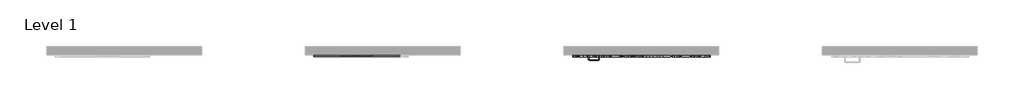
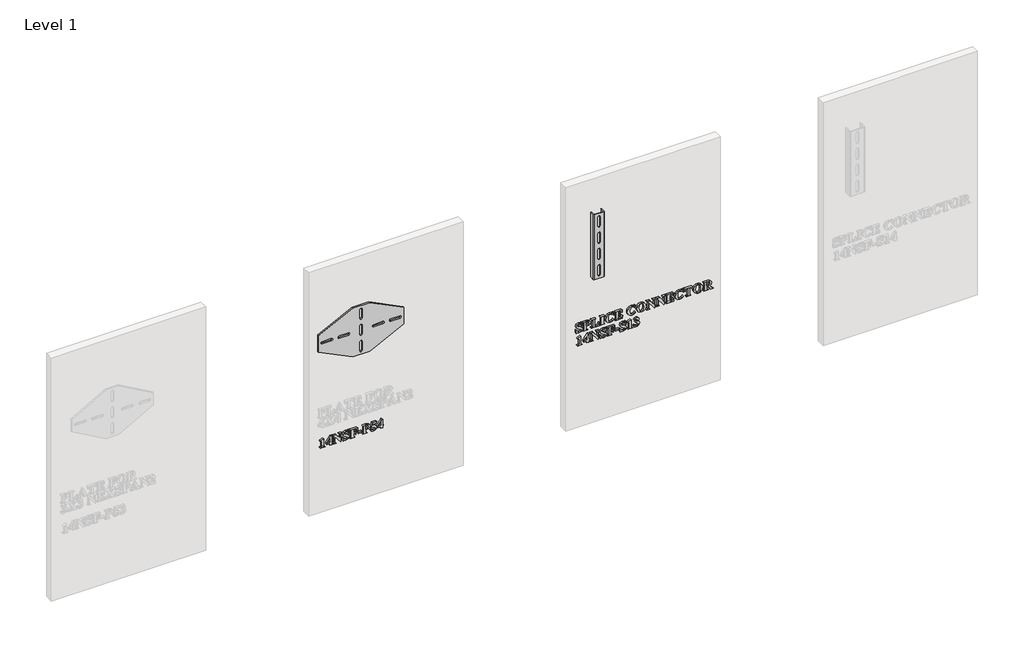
# One storey, part 20 of 21: 5 proxies.
"""IFC4 building model written with IfcOpenShell, lengths in millimetres."""

from ifc_helpers import new_model, si_unit, frame, origin, place, context, project, spatial, polyline, outline, extrude, transform, mapped, element, save
from components import generic_models_709acf42, generic_models_957c1ce1

model = new_model("IFC4")

# Units and contexts
model_context = context("Model", 3, world=origin())
ifc_project = project(units=[si_unit("LENGTHUNIT", "METRE", prefix="MILLI")], contexts=[model_context])

# Site, building, storey
site = spatial("IfcSite", under=ifc_project)
building = spatial("IfcBuilding", under=site)
storey = spatial("IfcBuildingStorey", under=building, Name="Level 1", Elevation=0.0)

# Proxies
placement = place(None, origin())
element("IfcBuildingElementProxy", 1, Name="2\"\" Arial", ObjectType="2\"\" Arial", at=placement, inside=storey, context=model_context, shape_type="SweptSolid", body=[
    extrude(outline(polyline([(463.8692305, 34458.9409375), (455.0050049, 34439.1834097), (453.2321598, 34439.8482267), (454.4648412, 34444.4049926), (453.827725, 34446.4825455), (452.3111114, 34447.7152269), (447.9136245, 34448.0476353), (421.3209478, 34448.0476353), (415.2544934, 34447.5282471), (413.2046413, 34445.5407215), (412.4567222, 34439.1834097), (410.6838771, 34439.1834097), (410.6838771, 34467.5489316), (412.4567222, 34466.3162502), (413.273893, 34461.8425863), (415.3791466, 34460.0074146), (421.3209478, 34459.5711285), (463.8692305, 34458.9409375)])), frame((0.0, -15490.3579358, 0.0), z_axis=(0.0, 1.0, 0.0), x_axis=(0.0, 0.0, 1.0)), (0.0, 0.0, 1.0), 12.7),
    extrude(outline(polyline([(430.1851733, 34476.4131571), (422.2073703, 34476.4131571), (422.2073703, 34495.0280308), (410.6838771, 34495.0280308), (410.6838771, 34506.551524), (422.2073703, 34506.551524), (422.2073703, 34510.9836368), (430.1851733, 34510.9836368), (430.1851733, 34506.551524), (463.8692305, 34506.551524), (463.8692305, 34501.440744), (430.1851733, 34476.4131571)]), holes=[polyline([(430.1851733, 34479.1001255), (451.6116686, 34495.0280308), (430.1851733, 34495.0280308), (430.1851733, 34479.1001255)])]), frame((0.0, -15490.3579358, 0.0), z_axis=(0.0, 1.0, 0.0), x_axis=(0.0, 0.0, 1.0)), (0.0, 0.0, 1.0), 12.7),
    extrude(outline(polyline([(462.9828079, 34533.6151127), (462.9828079, 34515.194144), (461.2099628, 34515.194144), (460.6074725, 34518.8575622), (457.4565173, 34522.50713), (419.5481027, 34522.50713), (414.097989, 34520.9489654), (412.4567222, 34515.4157496), (410.6838771, 34515.4157496), (410.6838771, 34533.1442007), (412.4567222, 34532.0500229), (413.9179344, 34527.8741416), (419.5481027, 34526.0528203), (452.9551528, 34526.0528203), (409.7974546, 34559.8753809), (409.7974546, 34561.5097225), (452.3457373, 34561.5097225), (457.7820006, 34562.1676143), (460.0673087, 34564.002786), (461.2099628, 34568.601103), (462.9828079, 34568.601103), (462.9828079, 34550.8726518), (461.2099628, 34550.8726518), (458.9662057, 34556.7036502), (452.3457373, 34557.9640323), (431.9164674, 34557.9640323), (462.9828079, 34533.6151127)])), frame((0.0, -15490.3579358, 0.0), z_axis=(0.0, 1.0, 0.0), x_axis=(0.0, 0.0, 1.0)), (0.0, 0.0, 1.0), 12.7),
    extrude(outline(polyline([(463.8692305, 34609.3765406), (463.8692305, 34607.6036955), (460.9329558, 34606.4956673), (460.3235403, 34604.8613257), (461.5631468, 34601.100955), (463.259815, 34596.5511142), (463.8692305, 34591.4680349), (459.5409954, 34579.5359562), (449.0493534, 34574.8060609), (442.4427353, 34576.4404025), (437.0064719, 34581.1218216), (431.0992966, 34591.9666475), (427.0549937, 34599.7228449), (423.7863105, 34602.9846029), (420.2267699, 34604.0580052), (414.7905066, 34601.3918124), (412.4567222, 34594.224255), (416.771107, 34583.3725039), (429.2987508, 34576.578906), (429.2987508, 34574.8060609), (409.7974546, 34574.8060609), (409.7974546, 34576.578906), (412.4705726, 34578.4002273), (413.3431448, 34580.5401068), (412.4844229, 34583.6010347), (410.3583938, 34589.1481008), (409.7974546, 34593.8364451), (414.4788737, 34606.8973275), (425.6699585, 34612.0358082), (434.76964, 34609.4180916), (443.218355, 34596.7311688), (447.7058692, 34587.5899362), (451.2654098, 34583.6702864), (454.3263377, 34582.7838639), (459.1254848, 34585.2076756), (461.2099628, 34591.786593), (457.0756326, 34601.8003978), (446.1407794, 34607.6036955), (446.1407794, 34609.3765406), (463.8692305, 34609.3765406)])), frame((0.0, -15490.3579358, 0.0), z_axis=(0.0, 1.0, 0.0), x_axis=(0.0, 0.0, 1.0)), (0.0, 0.0, 1.0), 12.7),
    extrude(outline(polyline([(459.4371177, 34635.9692173), (459.4371177, 34640.40133), (458.8415526, 34648.9608478), (455.1296581, 34655.373561), (447.0272019, 34658.1297812), (447.0272019, 34659.9026263), (462.9828079, 34659.9026263), (462.9828079, 34616.467921), (461.2099628, 34616.467921), (461.2099628, 34618.1438137), (460.5035948, 34621.495599), (458.8484777, 34623.1507161), (454.1185824, 34623.5593015), (419.5481027, 34623.5593015), (414.963636, 34623.1576412), (413.2184916, 34621.6618032), (412.4567222, 34618.1438137), (412.4567222, 34616.467921), (410.6838771, 34616.467921), (410.6838771, 34643.0605977), (412.4567222, 34643.0605977), (412.4567222, 34641.3985554), (413.1630902, 34638.0536953), (414.8182073, 34636.391653), (419.5481027, 34635.9692173), (435.5037087, 34635.9692173), (435.5037087, 34637.7420624), (433.0868222, 34644.6533882), (423.0937929, 34648.379133), (423.0937929, 34650.1519782), (451.4593147, 34650.1519782), (451.4593147, 34648.379133), (444.0770768, 34646.5231858), (440.1989782, 34643.0398222), (439.0493989, 34637.7420624), (439.0493989, 34635.9692173), (459.4371177, 34635.9692173)])), frame((0.0, -15490.3579358, 0.0), z_axis=(0.0, 1.0, 0.0), x_axis=(0.0, 0.0, 1.0)), (0.0, 0.0, 1.0), 12.7),
    extrude(outline(polyline([(34685.6088804, -15490.3579358), (34663.4483165, -15490.3579358), (34663.4483165, -15477.6579358), (34685.6088804, -15477.6579358), (34685.6088804, -15490.3579358)])), frame((0.0, 0.0, 424.866638), z_axis=(0.0, 0.0, 1.0), x_axis=(1.0, 0.0, 0.0)), (0.0, 0.0, 1.0), 7.977803),
    extrude(outline(polyline([(434.6172861, 34709.5422894), (435.5314094, 34722.7970767), (440.427509, 34731.9313842), (449.0632037, 34735.2485436), (459.0077568, 34730.2000901), (462.9828079, 34713.5450413), (462.9828079, 34690.0409932), (461.2099628, 34690.0409932), (460.6074725, 34694.82629), (459.0008316, 34696.6199106), (454.1185824, 34697.1323736), (419.5481027, 34697.1323736), (414.6797038, 34696.6199106), (413.0730629, 34694.8470655), (412.4567222, 34690.0409932), (410.6838771, 34690.0409932), (410.6838771, 34716.6336699), (412.4567222, 34716.6336699), (413.0592126, 34711.8622235), (414.6658534, 34710.0547525), (419.5481027, 34709.5422894), (434.6172861, 34709.5422894)]), holes=[polyline([(460.3235403, 34709.5422894), (460.3235403, 34711.3289849), (457.5673201, 34719.9508293), (448.8831491, 34722.8386278), (440.0466243, 34719.9508293), (437.1934517, 34711.7306451), (437.2765538, 34709.5422894), (460.3235403, 34709.5422894)])]), frame((0.0, -15490.3579358, 0.0), z_axis=(0.0, 1.0, 0.0), x_axis=(0.0, 0.0, 1.0)), (0.0, 0.0, 1.0), 12.7),
    extrude(outline(polyline([(462.9828079, 34748.5448819), (436.3901312, 34738.7942338), (436.4316823, 34741.9659645), (432.2073248, 34759.3758575), (427.3527763, 34764.5489642), (421.2378457, 34766.273333), (415.6630788, 34764.0018752), (413.3431448, 34758.489435), (413.8417575, 34755.7332148), (416.2655691, 34751.5781091), (419.7697083, 34746.1764716), (420.4345252, 34743.0601423), (419.1395173, 34740.0753914), (416.1547663, 34738.7942338), (412.2351166, 34741.2457462), (409.7974546, 34751.3149524), (412.1104634, 34762.4852616), (419.0633403, 34770.4699898), (428.5646821, 34773.3647135), (435.5210216, 34771.8169366), (441.2377546, 34767.1736059), (445.9953507, 34758.0462237), (447.9136245, 34745.7055597), (452.3457373, 34747.3260509), (452.3457373, 34769.8190233), (462.9828079, 34773.3647135), (462.9828079, 34748.5448819)])), frame((0.0, -15490.3579358, 0.0), z_axis=(0.0, 1.0, 0.0), x_axis=(0.0, 0.0, 1.0)), (0.0, 0.0, 1.0), 12.7),
    extrude(outline(polyline([(430.1851733, 34778.6832488), (422.2073703, 34778.6832488), (422.2073703, 34797.2981225), (410.6838771, 34797.2981225), (410.6838771, 34808.8216157), (422.2073703, 34808.8216157), (422.2073703, 34813.2537285), (430.1851733, 34813.2537285), (430.1851733, 34808.8216157), (463.8692305, 34808.8216157), (463.8692305, 34803.7108357), (430.1851733, 34778.6832488)]), holes=[polyline([(430.1851733, 34781.3702172), (451.6116686, 34797.2981225), (430.1851733, 34797.2981225), (430.1851733, 34781.3702172)])]), frame((0.0, -15490.3579358, 0.0), z_axis=(0.0, 1.0, 0.0), x_axis=(0.0, 0.0, 1.0)), (0.0, 0.0, 1.0), 12.7),
])
element("IfcBuildingElementProxy", 2, Name="2\"\" Arial", ObjectType="2\"\" Arial", at=placement, inside=storey, context=model_context, shape_type="SweptSolid", body=[
    extrude(outline(polyline([(653.4647125, 35990.5174669), (653.4647125, 35988.7446218), (650.5284378, 35987.6365936), (649.9190223, 35986.002252), (651.1586288, 35982.2418813), (652.855297, 35977.6920405), (653.4647125, 35972.6089612), (649.1364773, 35960.6768826), (638.6448354, 35955.9469872), (632.0382173, 35957.5813288), (626.6019539, 35962.2627479), (620.6947786, 35973.1075739), (616.6504757, 35980.8637712), (613.3817925, 35984.1255292), (609.8222519, 35985.1989316), (604.3859886, 35982.5327387), (602.0522042, 35975.3651813), (606.366589, 35964.5134302), (618.8942328, 35957.7198323), (618.8942328, 35955.9469872), (599.3929366, 35955.9469872), (599.3929366, 35957.7198323), (602.0660546, 35959.5411537), (602.9386268, 35961.6810331), (602.0799049, 35964.741961), (599.9538758, 35970.2890271), (599.3929366, 35974.9773714), (604.0743557, 35988.0382538), (615.2654405, 35993.1767346), (624.365122, 35990.5590179), (632.813837, 35977.8720951), (637.3013512, 35968.7308625), (640.8608918, 35964.8112128), (643.9218197, 35963.9247902), (648.7209668, 35966.3486019), (650.8054448, 35972.9275193), (646.6711146, 35982.9413241), (635.7362614, 35988.7446218), (635.7362614, 35990.5174669), (653.4647125, 35990.5174669)])), frame((0.0, -15490.3579358, 0.0), z_axis=(0.0, 1.0, 0.0), x_axis=(0.0, 0.0, 1.0)), (0.0, 0.0, 1.0), 12.7),
    extrude(outline(polyline([(624.2127681, 36016.223721), (625.1268914, 36029.4785083), (630.022991, 36038.6128157), (638.6586857, 36041.9299752), (648.6032388, 36036.8815217), (652.5782899, 36020.2264729), (652.5782899, 35996.7224248), (650.8054448, 35996.7224248), (650.2029545, 36001.5077216), (648.5963136, 36003.3013422), (643.7140644, 36003.8138052), (609.1435847, 36003.8138052), (604.2751858, 36003.3013422), (602.6685449, 36001.5284971), (602.0522042, 35996.7224248), (600.2793591, 35996.7224248), (600.2793591, 36023.3151015), (602.0522042, 36023.3151015), (602.6546946, 36018.5436551), (604.2613354, 36016.7361841), (609.1435847, 36016.223721), (624.2127681, 36016.223721)]), holes=[polyline([(649.9190223, 36016.223721), (649.9190223, 36018.0104165), (647.1628021, 36026.6322609), (638.4786311, 36029.5200594), (629.6421063, 36026.6322609), (626.7889337, 36018.4120767), (626.8720358, 36016.223721), (649.9190223, 36016.223721)])]), frame((0.0, -15490.3579358, 0.0), z_axis=(0.0, 1.0, 0.0), x_axis=(0.0, 0.0, 1.0)), (0.0, 0.0, 1.0), 12.7),
    extrude(outline(polyline([(619.7806553, 36093.3424834), (619.7806553, 36091.5696383), (610.1269597, 36087.7746417), (605.3416629, 36083.0239709), (603.8250493, 36076.154196), (603.8250493, 36071.8467364), (604.1713081, 36067.2345691), (605.7848742, 36065.4340233), (610.8333277, 36064.9769616), (643.7140644, 36064.9769616), (648.298531, 36065.3509211), (650.0436754, 36066.7636571), (650.8054448, 36070.0323403), (650.8054448, 36072.0683421), (652.5782899, 36072.0683421), (652.5782899, 36045.4756654), (650.8054448, 36045.4756654), (650.8054448, 36047.151558), (650.0990768, 36050.5033433), (648.4439597, 36052.1584604), (643.7140644, 36052.5670458), (609.1435847, 36052.5670458), (604.559118, 36052.1653856), (602.8139736, 36050.6695475), (602.0522042, 36047.151558), (602.0522042, 36045.4756654), (600.2793591, 36045.4756654), (600.2793591, 36091.5696383), (619.7806553, 36093.3424834)])), frame((0.0, -15490.3579358, 0.0), z_axis=(0.0, 1.0, 0.0), x_axis=(0.0, 0.0, 1.0)), (0.0, 0.0, 1.0), 12.7),
    extrude(outline(polyline([(602.0522042, 36124.3672729), (602.0522042, 36122.7052306), (602.7585722, 36119.3603705), (604.4136893, 36117.6983282), (609.1435847, 36117.2758924), (643.7140644, 36117.2758924), (648.298531, 36117.6775527), (650.0436754, 36119.2010914), (650.8054448, 36122.7052306), (650.8054448, 36124.3672729), (652.5782899, 36124.3672729), (652.5782899, 36097.7745962), (650.8054448, 36097.7745962), (650.8054448, 36099.4504889), (650.0990768, 36102.8022741), (648.4439597, 36104.4573913), (643.7140644, 36104.8659767), (609.1435847, 36104.8659767), (604.559118, 36104.4643164), (602.8139736, 36102.9684784), (602.0522042, 36099.4504889), (602.0522042, 36097.7745962), (600.2793591, 36097.7745962), (600.2793591, 36124.3672729), (602.0522042, 36124.3672729)])), frame((0.0, -15490.3579358, 0.0), z_axis=(0.0, 1.0, 0.0), x_axis=(0.0, 0.0, 1.0)), (0.0, 0.0, 1.0), 12.7),
    extrude(outline(polyline([(653.4647125, 36178.4390488), (653.4647125, 36176.6662037), (650.7708189, 36175.5166245), (649.9190223, 36173.4252212), (651.2209554, 36169.0208092), (653.4647125, 36157.6358195), (649.8012943, 36143.8339433), (639.5035572, 36133.5085055), (625.4731502, 36129.6858082), (612.2460636, 36133.1553215), (602.710096, 36143.0098473), (599.3929366, 36157.6219691), (601.4220132, 36168.5498972), (607.9663047, 36177.5526263), (612.4676693, 36177.5526263), (605.0785062, 36169.1800882), (602.9386268, 36160.4335907), (605.854126, 36150.9599496), (614.4551948, 36145.5860128), (627.0797911, 36143.8685691), (639.8636664, 36146.1954283), (647.1420266, 36151.9294743), (649.9190223, 36160.5443935), (646.2625292, 36170.6066745), (635.7362614, 36176.6662037), (635.7362614, 36178.4390488), (653.4647125, 36178.4390488)])), frame((0.0, -15490.3579358, 0.0), z_axis=(0.0, 1.0, 0.0), x_axis=(0.0, 0.0, 1.0)), (0.0, 0.0, 1.0), 12.7),
    extrude(outline(polyline([(649.0325997, 36205.0317255), (649.0325997, 36209.4638383), (648.3400821, 36217.4970427), (644.7320653, 36223.1895376), (636.6226839, 36226.3058669), (636.6226839, 36228.078712), (652.5782899, 36228.078712), (652.5782899, 36185.5304293), (650.8054448, 36185.5304293), (650.8054448, 36187.2063219), (649.7805187, 36191.0567199), (647.827619, 36192.4417552), (643.7140644, 36192.6218097), (609.1435847, 36192.6218097), (604.559118, 36192.2201495), (602.8139736, 36190.7243115), (602.0522042, 36187.2063219), (602.0522042, 36185.5304293), (600.2793591, 36185.5304293), (600.2793591, 36229.3390941), (616.8859317, 36230.280918), (606.4427659, 36224.1659874), (602.9386268, 36212.8433243), (602.9386268, 36209.8239475), (603.5549675, 36206.7076182), (605.1339076, 36205.3849095), (610.4039667, 36205.0317255), (625.0991907, 36205.0317255), (624.0950401, 36210.0386279), (620.1753904, 36213.0718551), (612.6892749, 36214.7823736), (612.6892749, 36216.5552188), (640.1683741, 36216.5552188), (640.1683741, 36214.7823736), (630.9024884, 36212.2754599), (627.7584584, 36205.0317255), (649.0325997, 36205.0317255)])), frame((0.0, -15490.3579358, 0.0), z_axis=(0.0, 1.0, 0.0), x_axis=(0.0, 0.0, 1.0)), (0.0, 0.0, 1.0), 12.7),
    extrude(outline(polyline([(653.4647125, 36306.9703195), (653.4647125, 36305.1974744), (650.7708189, 36304.0478951), (649.9190223, 36301.9564919), (651.2209554, 36297.5520798), (653.4647125, 36286.1670901), (649.8012943, 36272.3652139), (639.5035572, 36262.0397762), (625.4731502, 36258.2170789), (612.2460636, 36261.6865922), (602.710096, 36271.541118), (599.3929366, 36286.1532398), (601.4220132, 36297.0811679), (607.9663047, 36306.0838969), (612.4676693, 36306.0838969), (605.0785062, 36297.7113589), (602.9386268, 36288.9648613), (605.854126, 36279.4912203), (614.4551948, 36274.1172835), (627.0797911, 36272.3998398), (639.8636664, 36274.726699), (647.1420266, 36280.4607449), (649.9190223, 36289.0756641), (646.2625292, 36299.1379452), (635.7362614, 36305.1974744), (635.7362614, 36306.9703195), (653.4647125, 36306.9703195)])), frame((0.0, -15490.3579358, 0.0), z_axis=(0.0, 1.0, 0.0), x_axis=(0.0, 0.0, 1.0)), (0.0, 0.0, 1.0), 12.7),
    extrude(outline(polyline([(653.4647125, 36342.0809629), (651.8788471, 36331.5391134), (646.1794271, 36322.7943472), (637.4606302, 36316.9096787), (626.8166344, 36314.9481225), (617.1733265, 36316.4543483), (608.9358294, 36320.9730258), (601.7786598, 36330.1904354), (599.3929366, 36342.5795756), (601.8929252, 36354.9375526), (609.392891, 36364.1445744), (626.8581854, 36369.906321), (637.4969874, 36367.9741968), (646.2002026, 36362.1778243), (651.884041, 36353.2893607), (653.4647125, 36342.0809629)]), holes=[polyline([(650.8054448, 36342.5380246), (648.6863409, 36349.1515679), (641.4356814, 36353.8745381), (625.9440622, 36355.7235601), (611.8444034, 36353.9091639), (603.9774032, 36348.8399349), (602.0522042, 36342.4687728), (606.5120177, 36333.6460983), (626.2487699, 36329.1308834), (643.4924587, 36332.0533078), (648.9771983, 36336.4750328), (650.8054448, 36342.5380246)])]), frame((0.0, -15490.3579358, 0.0), z_axis=(0.0, 1.0, 0.0), x_axis=(0.0, 0.0, 1.0)), (0.0, 0.0, 1.0), 12.7),
    extrude(outline(polyline([(652.5782899, 36392.5377969), (652.5782899, 36374.1168281), (650.8054448, 36374.1168281), (650.2029545, 36377.7802464), (647.0519993, 36381.4298142), (609.1435847, 36381.4298142), (603.693471, 36379.8716496), (602.0522042, 36374.3384338), (600.2793591, 36374.3384338), (600.2793591, 36392.0668849), (602.0522042, 36390.9727071), (603.5134164, 36386.7968258), (609.1435847, 36384.9755045), (642.5506348, 36384.9755045), (599.3929366, 36418.7980651), (599.3929366, 36420.4324067), (641.9412193, 36420.4324067), (647.3774826, 36421.0902985), (649.6627907, 36422.9254702), (650.8054448, 36427.5237872), (652.5782899, 36427.5237872), (652.5782899, 36409.795336), (650.8054448, 36409.795336), (648.5616877, 36415.6263344), (641.9412193, 36416.8867165), (621.5119494, 36416.8867165), (652.5782899, 36392.5377969)])), frame((0.0, -15490.3579358, 0.0), z_axis=(0.0, 1.0, 0.0), x_axis=(0.0, 0.0, 1.0)), (0.0, 0.0, 1.0), 12.7),
    extrude(outline(polyline([(652.5782899, 36449.2688405), (652.5782899, 36430.8478718), (650.8054448, 36430.8478718), (650.2029545, 36434.51129), (647.0519993, 36438.1608578), (609.1435847, 36438.1608578), (603.693471, 36436.6026932), (602.0522042, 36431.0694774), (600.2793591, 36431.0694774), (600.2793591, 36448.7979285), (602.0522042, 36447.7037507), (603.5134164, 36443.5278694), (609.1435847, 36441.7065481), (642.5506348, 36441.7065481), (599.3929366, 36475.5291087), (599.3929366, 36477.1634503), (641.9412193, 36477.1634503), (647.3774826, 36477.8213421), (649.6627907, 36479.6565138), (650.8054448, 36484.2548308), (652.5782899, 36484.2548308), (652.5782899, 36466.5263796), (650.8054448, 36466.5263796), (648.5616877, 36472.357378), (641.9412193, 36473.6177601), (621.5119494, 36473.6177601), (652.5782899, 36449.2688405)])), frame((0.0, -15490.3579358, 0.0), z_axis=(0.0, 1.0, 0.0), x_axis=(0.0, 0.0, 1.0)), (0.0, 0.0, 1.0), 12.7),
    extrude(outline(polyline([(649.0325997, 36508.1882398), (649.0325997, 36512.6203526), (648.3400821, 36520.653557), (644.7320653, 36526.3460518), (636.6226839, 36529.4623811), (636.6226839, 36531.2352263), (652.5782899, 36531.2352263), (652.5782899, 36488.6869436), (650.8054448, 36488.6869436), (650.8054448, 36490.3628362), (649.7805187, 36494.2132342), (647.827619, 36495.5982694), (643.7140644, 36495.778324), (609.1435847, 36495.778324), (604.559118, 36495.3766638), (602.8139736, 36493.8808257), (602.0522042, 36490.3628362), (602.0522042, 36488.6869436), (600.2793591, 36488.6869436), (600.2793591, 36532.4956083), (616.8859317, 36533.4374323), (606.4427659, 36527.3225017), (602.9386268, 36515.9998386), (602.9386268, 36512.9804617), (603.5549675, 36509.8641324), (605.1339076, 36508.5414238), (610.4039667, 36508.1882398), (625.0991907, 36508.1882398), (624.0950401, 36513.1951422), (620.1753904, 36516.2283694), (612.6892749, 36517.9388879), (612.6892749, 36519.711733), (640.1683741, 36519.711733), (640.1683741, 36517.9388879), (630.9024884, 36515.4319741), (627.7584584, 36508.1882398), (649.0325997, 36508.1882398)])), frame((0.0, -15490.3579358, 0.0), z_axis=(0.0, 1.0, 0.0), x_axis=(0.0, 0.0, 1.0)), (0.0, 0.0, 1.0), 12.7),
    extrude(outline(polyline([(653.4647125, 36590.6255375), (653.4647125, 36588.8526924), (650.7708189, 36587.7031132), (649.9190223, 36585.6117099), (651.2209554, 36581.2072979), (653.4647125, 36569.8223082), (649.8012943, 36556.020432), (639.5035572, 36545.6949942), (625.4731502, 36541.8722969), (612.2460636, 36545.3418102), (602.710096, 36555.196336), (599.3929366, 36569.8084578), (601.4220132, 36580.7363859), (607.9663047, 36589.739115), (612.4676693, 36589.739115), (605.0785062, 36581.3665769), (602.9386268, 36572.6200794), (605.854126, 36563.1464383), (614.4551948, 36557.7725015), (627.0797911, 36556.0550578), (639.8636664, 36558.381917), (647.1420266, 36564.115963), (649.9190223, 36572.7308822), (646.2625292, 36582.7931632), (635.7362614, 36588.8526924), (635.7362614, 36590.6255375), (653.4647125, 36590.6255375)])), frame((0.0, -15490.3579358, 0.0), z_axis=(0.0, 1.0, 0.0), x_axis=(0.0, 0.0, 1.0)), (0.0, 0.0, 1.0), 12.7),
    extrude(outline(polyline([(652.5782899, 36644.6973135), (652.5782899, 36598.6033405), (637.5091065, 36598.6033405), (637.5091065, 36600.3761857), (646.7195908, 36604.47589), (649.0325997, 36611.8996789), (649.0325997, 36615.4453691), (609.1435847, 36615.4453691), (604.559118, 36615.0437089), (602.8139736, 36613.5201701), (602.0522042, 36610.016031), (602.0522042, 36608.3539887), (600.2793591, 36608.3539887), (600.2793591, 36634.9466654), (602.0522042, 36634.9466654), (602.0522042, 36633.2984734), (602.7585722, 36629.9328378), (604.4136893, 36628.2777207), (609.1435847, 36627.8552849), (649.0325997, 36627.8552849), (649.0325997, 36631.4009751), (648.3123814, 36636.3317006), (644.7874667, 36640.2929014), (637.5091065, 36642.9244684), (637.5091065, 36644.6973135), (652.5782899, 36644.6973135)])), frame((0.0, -15490.3579358, 0.0), z_axis=(0.0, 1.0, 0.0), x_axis=(0.0, 0.0, 1.0)), (0.0, 0.0, 1.0), 12.7),
    extrude(outline(polyline([(653.4647125, 36678.0351118), (651.8788471, 36667.4932623), (646.1794271, 36658.748496), (637.4606302, 36652.8638275), (626.8166344, 36650.9022714), (617.1733265, 36652.4084972), (608.9358294, 36656.9271747), (601.7786598, 36666.1445842), (599.3929366, 36678.5337245), (601.8929252, 36690.8917015), (609.392891, 36700.0987232), (626.8581854, 36705.8604699), (637.4969874, 36703.9283457), (646.2002026, 36698.1319732), (651.884041, 36689.2435095), (653.4647125, 36678.0351118)]), holes=[polyline([(650.8054448, 36678.4921734), (648.6863409, 36685.1057167), (641.4356814, 36689.8286869), (625.9440622, 36691.677709), (611.8444034, 36689.8633128), (603.9774032, 36684.7940838), (602.0522042, 36678.4229217), (606.5120177, 36669.6002472), (626.2487699, 36665.0850323), (643.4924587, 36668.0074566), (648.9771983, 36672.4291816), (650.8054448, 36678.4921734)])]), frame((0.0, -15490.3579358, 0.0), z_axis=(0.0, 1.0, 0.0), x_axis=(0.0, 0.0, 1.0)), (0.0, 0.0, 1.0), 12.7),
    extrude(outline(polyline([(624.2127681, 36729.7938789), (624.2127681, 36733.2287663), (600.2793591, 36750.0153934), (600.2793591, 36766.1372037), (602.0522042, 36766.1372037), (603.3956884, 36762.8685205), (607.7723998, 36759.7244905), (625.4592998, 36747.3145747), (628.9911397, 36754.2674516), (638.395529, 36758.1594007), (646.5326111, 36755.3962554), (651.2902072, 36748.2633239), (652.5782899, 36734.4614477), (652.5782899, 36710.2925826), (650.8054448, 36710.2925826), (650.2029545, 36715.0778794), (648.5963136, 36716.8715001), (643.7140644, 36717.3839631), (609.1435847, 36717.3839631), (604.2751858, 36716.8715001), (602.6685449, 36715.0986549), (602.0522042, 36710.2925826), (600.2793591, 36710.2925826), (600.2793591, 36736.8852593), (602.0522042, 36736.8852593), (602.6546946, 36732.0999626), (604.2613354, 36730.3063419), (609.1435847, 36729.7938789), (624.2127681, 36729.7938789)]), holes=[polyline([(649.9190223, 36729.7938789), (649.9190223, 36733.9212839), (647.0450741, 36742.9517137), (638.160073, 36745.7494849), (631.4288018, 36744.2259461), (627.862336, 36740.0362145), (626.8720358, 36731.9960849), (626.8720358, 36729.7938789), (649.9190223, 36729.7938789)])]), frame((0.0, -15490.3579358, 0.0), z_axis=(0.0, 1.0, 0.0), x_axis=(0.0, 0.0, 1.0)), (0.0, 0.0, 1.0), 12.7),
])
element("IfcBuildingElementProxy", 3, Name="2\"\" Arial", ObjectType="2\"\" Arial", at=placement, inside=storey, context=model_context, shape_type="SweptSolid", body=[
    extrude(outline(polyline([(571.8192305, 35982.9409375), (562.9550049, 35963.1834097), (561.1821598, 35963.8482267), (562.4148412, 35968.4049926), (561.777725, 35970.4825455), (560.2611114, 35971.7152269), (555.8636245, 35972.0476353), (529.2709478, 35972.0476353), (523.2044934, 35971.5282471), (521.1546413, 35969.5407215), (520.4067222, 35963.1834097), (518.6338771, 35963.1834097), (518.6338771, 35991.5489316), (520.4067222, 35990.3162502), (521.223893, 35985.8425863), (523.3291466, 35984.0074146), (529.2709478, 35983.5711285), (571.8192305, 35982.9409375)])), frame((0.0, -15490.3579358, 0.0), z_axis=(0.0, 1.0, 0.0), x_axis=(0.0, 0.0, 1.0)), (0.0, 0.0, 1.0), 12.7),
    extrude(outline(polyline([(538.1351733, 36000.4131571), (530.1573703, 36000.4131571), (530.1573703, 36019.0280308), (518.6338771, 36019.0280308), (518.6338771, 36030.551524), (530.1573703, 36030.551524), (530.1573703, 36034.9836368), (538.1351733, 36034.9836368), (538.1351733, 36030.551524), (571.8192305, 36030.551524), (571.8192305, 36025.440744), (538.1351733, 36000.4131571)]), holes=[polyline([(538.1351733, 36003.1001255), (559.5616686, 36019.0280308), (538.1351733, 36019.0280308), (538.1351733, 36003.1001255)])]), frame((0.0, -15490.3579358, 0.0), z_axis=(0.0, 1.0, 0.0), x_axis=(0.0, 0.0, 1.0)), (0.0, 0.0, 1.0), 12.7),
    extrude(outline(polyline([(570.9328079, 36057.6151127), (570.9328079, 36039.194144), (569.1599628, 36039.194144), (568.5574725, 36042.8575622), (565.4065173, 36046.50713), (527.4981027, 36046.50713), (522.047989, 36044.9489654), (520.4067222, 36039.4157496), (518.6338771, 36039.4157496), (518.6338771, 36057.1442007), (520.4067222, 36056.0500229), (521.8679344, 36051.8741416), (527.4981027, 36050.0528203), (560.9051528, 36050.0528203), (517.7474546, 36083.8753809), (517.7474546, 36085.5097225), (560.2957373, 36085.5097225), (565.7320006, 36086.1676143), (568.0173087, 36088.002786), (569.1599628, 36092.601103), (570.9328079, 36092.601103), (570.9328079, 36074.8726518), (569.1599628, 36074.8726518), (566.9162057, 36080.7036502), (560.2957373, 36081.9640323), (539.8664674, 36081.9640323), (570.9328079, 36057.6151127)])), frame((0.0, -15490.3579358, 0.0), z_axis=(0.0, 1.0, 0.0), x_axis=(0.0, 0.0, 1.0)), (0.0, 0.0, 1.0), 12.7),
    extrude(outline(polyline([(571.8192305, 36133.3765406), (571.8192305, 36131.6036955), (568.8829558, 36130.4956673), (568.2735403, 36128.8613257), (569.5131468, 36125.100955), (571.209815, 36120.5511142), (571.8192305, 36115.4680349), (567.4909954, 36103.5359562), (556.9993534, 36098.8060609), (550.3927353, 36100.4404025), (544.9564719, 36105.1218216), (539.0492966, 36115.9666475), (535.0049937, 36123.7228449), (531.7363105, 36126.9846029), (528.1767699, 36128.0580052), (522.7405066, 36125.3918124), (520.4067222, 36118.224255), (524.721107, 36107.3725039), (537.2487508, 36100.578906), (537.2487508, 36098.8060609), (517.7474546, 36098.8060609), (517.7474546, 36100.578906), (520.4205726, 36102.4002273), (521.2931448, 36104.5401068), (520.4344229, 36107.6010347), (518.3083938, 36113.1481008), (517.7474546, 36117.8364451), (522.4288737, 36130.8973275), (533.6199585, 36136.0358082), (542.71964, 36133.4180916), (551.168355, 36120.7311688), (555.6558692, 36111.5899362), (559.2154098, 36107.6702864), (562.2763377, 36106.7838639), (567.0754848, 36109.2076756), (569.1599628, 36115.786593), (565.0256326, 36125.8003978), (554.0907794, 36131.6036955), (554.0907794, 36133.3765406), (571.8192305, 36133.3765406)])), frame((0.0, -15490.3579358, 0.0), z_axis=(0.0, 1.0, 0.0), x_axis=(0.0, 0.0, 1.0)), (0.0, 0.0, 1.0), 12.7),
    extrude(outline(polyline([(567.3871177, 36159.9692173), (567.3871177, 36164.40133), (566.7915526, 36172.9608478), (563.0796581, 36179.373561), (554.9772019, 36182.1297812), (554.9772019, 36183.9026263), (570.9328079, 36183.9026263), (570.9328079, 36140.467921), (569.1599628, 36140.467921), (569.1599628, 36142.1438137), (568.4535948, 36145.495599), (566.7984777, 36147.1507161), (562.0685824, 36147.5593015), (527.4981027, 36147.5593015), (522.913636, 36147.1576412), (521.1684916, 36145.6618032), (520.4067222, 36142.1438137), (520.4067222, 36140.467921), (518.6338771, 36140.467921), (518.6338771, 36167.0605977), (520.4067222, 36167.0605977), (520.4067222, 36165.3985554), (521.1130902, 36162.0536953), (522.7682073, 36160.391653), (527.4981027, 36159.9692173), (543.4537087, 36159.9692173), (543.4537087, 36161.7420624), (541.0368222, 36168.6533882), (531.0437929, 36172.379133), (531.0437929, 36174.1519782), (559.4093147, 36174.1519782), (559.4093147, 36172.379133), (552.0270768, 36170.5231858), (548.1489782, 36167.0398222), (546.9993989, 36161.7420624), (546.9993989, 36159.9692173), (567.3871177, 36159.9692173)])), frame((0.0, -15490.3579358, 0.0), z_axis=(0.0, 1.0, 0.0), x_axis=(0.0, 0.0, 1.0)), (0.0, 0.0, 1.0), 12.7),
    extrude(outline(polyline([(36209.6088804, -15490.3579358), (36187.4483165, -15490.3579358), (36187.4483165, -15477.6579358), (36209.6088804, -15477.6579358), (36209.6088804, -15490.3579358)])), frame((0.0, 0.0, 532.816638), z_axis=(0.0, 0.0, 1.0), x_axis=(1.0, 0.0, 0.0)), (0.0, 0.0, 1.0), 7.977803),
    extrude(outline(polyline([(571.8192305, 36251.2707406), (571.8192305, 36249.4978954), (568.8829558, 36248.3898673), (568.2735403, 36246.7555257), (569.5131468, 36242.995155), (571.209815, 36238.4453142), (571.8192305, 36233.3622349), (567.4909954, 36221.4301562), (556.9993534, 36216.7002609), (550.3927353, 36218.3346025), (544.9564719, 36223.0160216), (539.0492966, 36233.8608475), (535.0049937, 36241.6170449), (531.7363105, 36244.8788029), (528.1767699, 36245.9522052), (522.7405066, 36243.2860124), (520.4067222, 36236.118455), (524.721107, 36225.2667038), (537.2487508, 36218.473106), (537.2487508, 36216.7002609), (517.7474546, 36216.7002609), (517.7474546, 36218.473106), (520.4205726, 36220.2944273), (521.2931448, 36222.4343068), (520.4344229, 36225.4952347), (518.3083938, 36231.0423008), (517.7474546, 36235.7306451), (522.4288737, 36248.7915275), (533.6199585, 36253.9300082), (542.71964, 36251.3122916), (551.168355, 36238.6253688), (555.6558692, 36229.4841362), (559.2154098, 36225.5644864), (562.2763377, 36224.6780639), (567.0754848, 36227.1018755), (569.1599628, 36233.680793), (565.0256326, 36243.6945978), (554.0907794, 36249.4978954), (554.0907794, 36251.2707406), (571.8192305, 36251.2707406)])), frame((0.0, -15490.3579358, 0.0), z_axis=(0.0, 1.0, 0.0), x_axis=(0.0, 0.0, 1.0)), (0.0, 0.0, 1.0), 12.7),
    extrude(outline(polyline([(571.8192305, 36280.7789164), (562.9550049, 36261.0213887), (561.1821598, 36261.6862056), (562.4148412, 36266.2429716), (561.777725, 36268.3205244), (560.2611114, 36269.5532058), (555.8636245, 36269.8856142), (529.2709478, 36269.8856142), (523.2044934, 36269.366226), (521.1546413, 36267.3787005), (520.4067222, 36261.0213887), (518.6338771, 36261.0213887), (518.6338771, 36289.3869105), (520.4067222, 36288.1542291), (521.223893, 36283.6805653), (523.3291466, 36281.8453936), (529.2709478, 36281.4091075), (571.8192305, 36280.7789164)])), frame((0.0, -15490.3579358, 0.0), z_axis=(0.0, 1.0, 0.0), x_axis=(0.0, 0.0, 1.0)), (0.0, 0.0, 1.0), 12.7),
    extrude(outline(polyline([(546.9993989, 36306.2289391), (540.8290669, 36318.1194666), (531.0714936, 36322.1845451), (525.3305225, 36320.0792915), (523.0659899, 36315.0377632), (526.1823192, 36307.7801785), (529.6033562, 36303.278814), (530.1573703, 36300.8134512), (528.6684575, 36297.7871492), (525.074291, 36296.4782909), (520.3513208, 36298.7358984), (517.7474546, 36308.6804514), (519.2623369, 36317.8563099), (523.8069837, 36324.9684659), (530.5157482, 36329.5286945), (538.5229832, 36331.0487706), (547.0686507, 36328.2094484), (552.8026966, 36319.9684887), (557.0062786, 36326.3535012), (561.9716299, 36328.389503), (568.8691054, 36324.7537854), (571.8192305, 36315.5225255), (569.3746433, 36305.5710473), (561.5561193, 36299.1375586), (566.5006952, 36308.5280976), (564.1392101, 36314.4768239), (558.4813411, 36316.8660097), (553.7791464, 36315.5848521), (550.3304087, 36312.5446998), (546.9993989, 36306.2289391)])), frame((0.0, -15490.3579358, 0.0), z_axis=(0.0, 1.0, 0.0), x_axis=(0.0, 0.0, 1.0)), (0.0, 0.0, 1.0), 12.7),
])
generic_models_shape = generic_models_709acf42(model_context)
element("IfcBuildingElementProxy", 4, Name="14NSF-S13 : 14NSF-S13", ObjectType="14NSF-S13 : 14NSF-S13", at=placement, inside=storey, context=model_context, shape_type="MappedRepresentation", body=[
    mapped(generic_models_shape, transform((36079.5187481, -15509.4079358, 914.4), x_axis=(1.0, 0.0, 0.0), y_axis=(0.0, 1.0, 0.0), z_axis=(0.0, 0.0, 1.0))),
])
generic_models_2_shape = generic_models_957c1ce1(model_context)
element("IfcBuildingElementProxy", 5, Name="14NSF-P54 : 14NSF-P54", ObjectType="14NSF-P54 : 14NSF-P54", at=placement, inside=storey, context=model_context, shape_type="MappedRepresentation", body=[
    mapped(generic_models_2_shape, transform((34682.5187481, -15477.6579358, 1066.8), x_axis=(1.0, 0.0, 0.0), y_axis=(0.0, 0.0, 1.0), z_axis=(0.0, -1.0, 0.0))),
])

save(model, "model.ifc")
